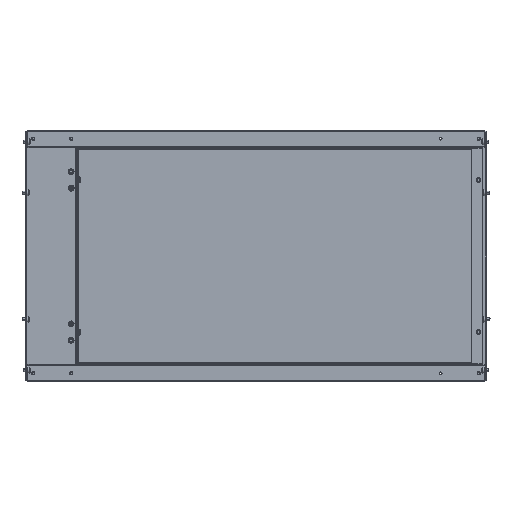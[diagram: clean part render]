
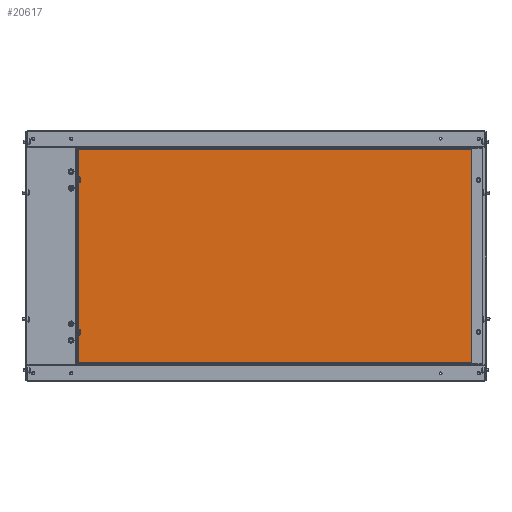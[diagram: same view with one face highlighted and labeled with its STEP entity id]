
A CAD part, left-side view. The second image highlights one B-rep face of the part: STEP entity #20617.
In plain terms, the highlighted planar face has unit normal (-1, 0, 0).
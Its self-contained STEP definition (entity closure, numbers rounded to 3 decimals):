
#1647 = EDGE_LOOP ( 'NONE', ( #2376, #22761, #5725, #27701 ) ) ;
#2104 = EDGE_CURVE ( 'NONE', #6660, #30151, #23256, .T. ) ;
#2376 = ORIENTED_EDGE ( 'NONE', *, *, #25072, .T. ) ;
#4330 = CARTESIAN_POINT ( 'NONE',  ( -314.488, 935.131, 534.31 ) ) ;
#4862 = AXIS2_PLACEMENT_3D ( 'NONE', #26261, #26417, #12089 ) ;
#5725 = ORIENTED_EDGE ( 'NONE', *, *, #28877, .T. ) ;
#6071 = LINE ( 'NONE', #10254, #6163 ) ;
#6163 = VECTOR ( 'NONE', #15697, 1000. ) ;
#6660 = VERTEX_POINT ( 'NONE', #10491 ) ;
#7554 = CARTESIAN_POINT ( 'NONE',  ( -314.488, 159.631, 534.31 ) ) ;
#8640 = PLANE ( 'NONE',  #4862 ) ;
#9085 = LINE ( 'NONE', #18714, #18896 ) ;
#10254 = CARTESIAN_POINT ( 'NONE',  ( -314.488, 159.631, 744.81 ) ) ;
#10491 = CARTESIAN_POINT ( 'NONE',  ( -314.488, 935.131, 955.31 ) ) ;
#10946 = VERTEX_POINT ( 'NONE', #27014 ) ;
#12089 = DIRECTION ( 'NONE',  ( 0., 0., -1. ) ) ;
#15697 = DIRECTION ( 'NONE',  ( 0., 0., 1. ) ) ;
#18057 = DIRECTION ( 'NONE',  ( 0., 0., -1. ) ) ;
#18277 = FACE_OUTER_BOUND ( 'NONE', #1647, .T. ) ;
#18683 = CARTESIAN_POINT ( 'NONE',  ( -314.488, 935.131, 744.81 ) ) ;
#18714 = CARTESIAN_POINT ( 'NONE',  ( -314.488, 547.381, 534.31 ) ) ;
#18888 = CARTESIAN_POINT ( 'NONE',  ( -314.488, 547.381, 955.31 ) ) ;
#18896 = VECTOR ( 'NONE', #25929, 1000. ) ;
#20282 = VERTEX_POINT ( 'NONE', #7554 ) ;
#20617 = ADVANCED_FACE ( 'NONE', ( #18277 ), #8640, .T. ) ;
#22761 = ORIENTED_EDGE ( 'NONE', *, *, #2104, .T. ) ;
#23256 = LINE ( 'NONE', #18683, #24517 ) ;
#23461 = DIRECTION ( 'NONE',  ( 0., 1., 0. ) ) ;
#24517 = VECTOR ( 'NONE', #18057, 1000. ) ;
#25072 = EDGE_CURVE ( 'NONE', #10946, #6660, #25800, .T. ) ;
#25800 = LINE ( 'NONE', #18888, #30212 ) ;
#25929 = DIRECTION ( 'NONE',  ( 0., -1., 0. ) ) ;
#26261 = CARTESIAN_POINT ( 'NONE',  ( -314.488, 547.381, 744.81 ) ) ;
#26417 = DIRECTION ( 'NONE',  ( -1., 0., 0. ) ) ;
#27014 = CARTESIAN_POINT ( 'NONE',  ( -314.488, 159.631, 955.31 ) ) ;
#27701 = ORIENTED_EDGE ( 'NONE', *, *, #30053, .T. ) ;
#28877 = EDGE_CURVE ( 'NONE', #30151, #20282, #9085, .T. ) ;
#30053 = EDGE_CURVE ( 'NONE', #20282, #10946, #6071, .T. ) ;
#30151 = VERTEX_POINT ( 'NONE', #4330 ) ;
#30212 = VECTOR ( 'NONE', #23461, 1000. ) ;
